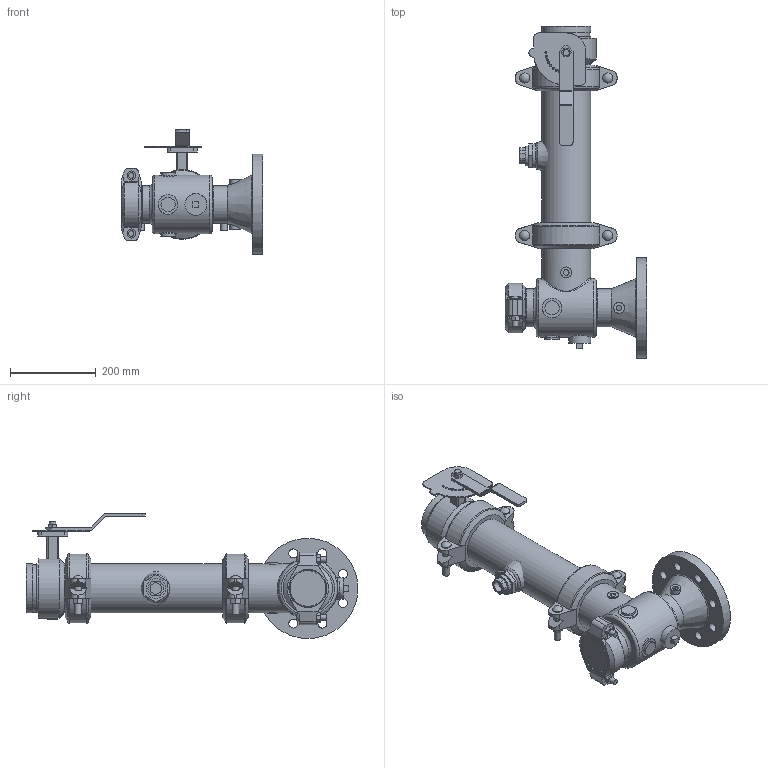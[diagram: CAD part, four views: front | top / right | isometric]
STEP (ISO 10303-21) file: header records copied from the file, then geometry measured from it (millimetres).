
FILE_DESCRIPTION(/* description */ ('VIC SVI PUMP DROP HORZ S/391 (OGSxFLG)','CAx-IF Rec.Pracs.---Representation and Presentation of Product Manufacturing Information (PMI)---4.0---2014-10-13'),/* implementation_level */ '2;1');
FILE_NAME(/* name */ 'C:\Users\kkamble\AppData\Roaming\Autodesk\ApplicationPlugins\Back Up\Victaulic_PN10_Series 391 (OGSxFLG)\Victaulic_PN10_Series 391 (OGSxFLG)_04.0x04.0 (100x100).stp',/* time_stamp */ '2020-11-26T23:43:43+05:00',/* author */ ('kkamble'),/* organization */ ('Victaulic'),/* preprocessor_version */ 'ST-DEVELOPER v17.2',/* originating_system */ 'Autodesk Inventor 2019',/* authorisation */ '');
FILE_SCHEMA (('AP242_MANAGED_MODEL_BASED_3D_ENGINEERING_MIM_LF { 1 0 10303 442 1 1 4 }'));
Length unit declared in the file: inch
Products named in the file (9): 391-04.0x04.0; 731D-04.0x04.0; 731D-04.0x04.0_1; 731D-04.0; 07-03.0; PIPE-04.0; 177N-04.0; 761-04.0; 923-04.0x0.75
Assembly tree (9 placements, depth 3):
  391-04.0x04.0
    731D-04.0x04.0
      731D-04.0x04.0_1
      731D-04.0
      07-03.0
    177N-04.0  x2
    PIPE-04.0
    761-04.0
    923-04.0x0.75
Bounding box: 330.2 x 773.94 x 291.85 mm (x, y, z)
Volume: 5962751.3 mm3; surface area: 1075568.6 mm2
Topology: 8 solids, 11 shells, 531 faces, 1381 edges, 931 vertices
Faces by surface type: plane 297, cylinder 191, cone 19, torus 17, sphere 6, bspline 1
Full cylindrical faces by diameter (mm): 4.826 x10, 8.636 x4, 12.7 x4, 13.157 x4, 14.986 x2, 15.875 x4, 21.006 x8, 22.225 x2, 22.86 x1, 23.495 x4, 25.4 x4, 26.67 x1, 33.02 x3, 45.974 x2, 50.8 x1, 55.118 x1, 55.626 x1, 65.278 x1, 67.056 x1, 72.898 x1, 82.55 x1, 84.938 x2, 88.9 x6, 96.52 x1, 101.6 x3, 102.26 x2, 110.084 x5, 114.3 x13, 137.16 x1, 139.7 x1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
Entity records: 15515 total; most frequent: CARTESIAN_POINT 3419, DIRECTION 2487, ORIENTED_EDGE 2282, EDGE_CURVE 1141, AXIS2_PLACEMENT_3D 948, VERTEX_POINT 772, LINE 591, VECTOR 591
